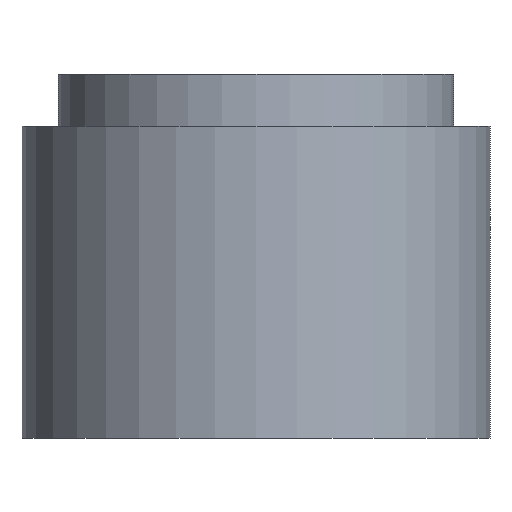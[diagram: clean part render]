
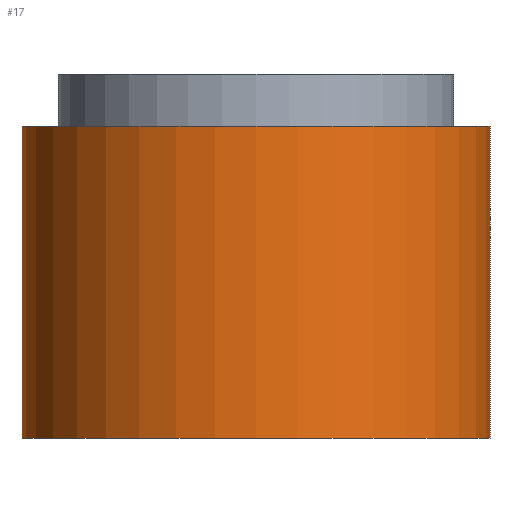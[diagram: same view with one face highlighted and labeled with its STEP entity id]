
A CAD part, front view. The second image highlights one B-rep face of the part: STEP entity #17.
In plain terms, the highlighted cylindrical face has radius 45 mm (diameter 90 mm), a full revolution.
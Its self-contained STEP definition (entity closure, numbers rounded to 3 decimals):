
#17 = ADVANCED_FACE('',(#18),#32,.T.);
#18 = FACE_BOUND('',#19,.F.);
#19 = EDGE_LOOP('',(#20,#50,#77,#78));
#20 = ORIENTED_EDGE('',*,*,#21,.T.);
#21 = EDGE_CURVE('',#22,#24,#26,.T.);
#22 = VERTEX_POINT('',#23);
#23 = CARTESIAN_POINT('',(45.,0.,0.));
#24 = VERTEX_POINT('',#25);
#25 = CARTESIAN_POINT('',(45.,0.,60.));
#26 = SEAM_CURVE('',#27,(#31,#43),.PCURVE_S1.);
#27 = LINE('',#28,#29);
#28 = CARTESIAN_POINT('',(45.,0.,0.));
#29 = VECTOR('',#30,1.);
#30 = DIRECTION('',(0.,0.,1.));
#31 = PCURVE('',#32,#37);
#32 = CYLINDRICAL_SURFACE('',#33,45.);
#33 = AXIS2_PLACEMENT_3D('',#34,#35,#36);
#34 = CARTESIAN_POINT('',(0.,0.,0.));
#35 = DIRECTION('',(-0.,-0.,-1.));
#36 = DIRECTION('',(1.,0.,0.));
#37 = DEFINITIONAL_REPRESENTATION('',(#38),#42);
#38 = LINE('',#39,#40);
#39 = CARTESIAN_POINT('',(-0.,0.));
#40 = VECTOR('',#41,1.);
#41 = DIRECTION('',(-0.,-1.));
#42 = ( GEOMETRIC_REPRESENTATION_CONTEXT(2) 
PARAMETRIC_REPRESENTATION_CONTEXT() REPRESENTATION_CONTEXT('2D SPACE',''
  ) );
#43 = PCURVE('',#32,#44);
#44 = DEFINITIONAL_REPRESENTATION('',(#45),#49);
#45 = LINE('',#46,#47);
#46 = CARTESIAN_POINT('',(-6.283,0.));
#47 = VECTOR('',#48,1.);
#48 = DIRECTION('',(-0.,-1.));
#49 = ( GEOMETRIC_REPRESENTATION_CONTEXT(2) 
PARAMETRIC_REPRESENTATION_CONTEXT() REPRESENTATION_CONTEXT('2D SPACE',''
  ) );
#50 = ORIENTED_EDGE('',*,*,#51,.T.);
#51 = EDGE_CURVE('',#24,#24,#52,.T.);
#52 = SURFACE_CURVE('',#53,(#58,#65),.PCURVE_S1.);
#53 = CIRCLE('',#54,45.);
#54 = AXIS2_PLACEMENT_3D('',#55,#56,#57);
#55 = CARTESIAN_POINT('',(0.,0.,60.));
#56 = DIRECTION('',(0.,0.,1.));
#57 = DIRECTION('',(1.,0.,0.));
#58 = PCURVE('',#32,#59);
#59 = DEFINITIONAL_REPRESENTATION('',(#60),#64);
#60 = LINE('',#61,#62);
#61 = CARTESIAN_POINT('',(-0.,-60.));
#62 = VECTOR('',#63,1.);
#63 = DIRECTION('',(-1.,0.));
#64 = ( GEOMETRIC_REPRESENTATION_CONTEXT(2) 
PARAMETRIC_REPRESENTATION_CONTEXT() REPRESENTATION_CONTEXT('2D SPACE',''
  ) );
#65 = PCURVE('',#66,#71);
#66 = PLANE('',#67);
#67 = AXIS2_PLACEMENT_3D('',#68,#69,#70);
#68 = CARTESIAN_POINT('',(0.,0.,60.));
#69 = DIRECTION('',(0.,0.,1.));
#70 = DIRECTION('',(1.,0.,-0.));
#71 = DEFINITIONAL_REPRESENTATION('',(#72),#76);
#72 = CIRCLE('',#73,45.);
#73 = AXIS2_PLACEMENT_2D('',#74,#75);
#74 = CARTESIAN_POINT('',(0.,0.));
#75 = DIRECTION('',(1.,0.));
#76 = ( GEOMETRIC_REPRESENTATION_CONTEXT(2) 
PARAMETRIC_REPRESENTATION_CONTEXT() REPRESENTATION_CONTEXT('2D SPACE',''
  ) );
#77 = ORIENTED_EDGE('',*,*,#21,.F.);
#78 = ORIENTED_EDGE('',*,*,#79,.F.);
#79 = EDGE_CURVE('',#22,#22,#80,.T.);
#80 = SURFACE_CURVE('',#81,(#86,#93),.PCURVE_S1.);
#81 = CIRCLE('',#82,45.);
#82 = AXIS2_PLACEMENT_3D('',#83,#84,#85);
#83 = CARTESIAN_POINT('',(0.,0.,0.));
#84 = DIRECTION('',(0.,0.,1.));
#85 = DIRECTION('',(1.,0.,0.));
#86 = PCURVE('',#32,#87);
#87 = DEFINITIONAL_REPRESENTATION('',(#88),#92);
#88 = LINE('',#89,#90);
#89 = CARTESIAN_POINT('',(-0.,0.));
#90 = VECTOR('',#91,1.);
#91 = DIRECTION('',(-1.,0.));
#92 = ( GEOMETRIC_REPRESENTATION_CONTEXT(2) 
PARAMETRIC_REPRESENTATION_CONTEXT() REPRESENTATION_CONTEXT('2D SPACE',''
  ) );
#93 = PCURVE('',#94,#99);
#94 = PLANE('',#95);
#95 = AXIS2_PLACEMENT_3D('',#96,#97,#98);
#96 = CARTESIAN_POINT('',(0.,0.,0.));
#97 = DIRECTION('',(0.,0.,1.));
#98 = DIRECTION('',(1.,0.,-0.));
#99 = DEFINITIONAL_REPRESENTATION('',(#100),#104);
#100 = CIRCLE('',#101,45.);
#101 = AXIS2_PLACEMENT_2D('',#102,#103);
#102 = CARTESIAN_POINT('',(0.,0.));
#103 = DIRECTION('',(1.,0.));
#104 = ( GEOMETRIC_REPRESENTATION_CONTEXT(2) 
PARAMETRIC_REPRESENTATION_CONTEXT() REPRESENTATION_CONTEXT('2D SPACE',''
  ) );
